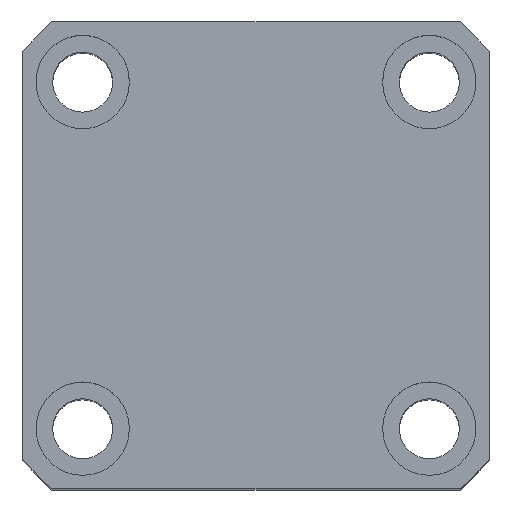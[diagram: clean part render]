
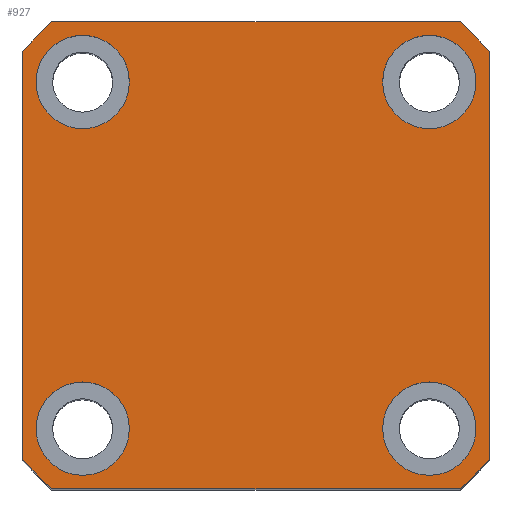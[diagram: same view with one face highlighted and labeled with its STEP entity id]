
A CAD part, top view. The second image highlights one B-rep face of the part: STEP entity #927.
In plain terms, the highlighted planar face has unit normal (0, 0, 1).
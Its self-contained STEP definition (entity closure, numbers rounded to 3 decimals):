
#51 = CARTESIAN_POINT ( 'NONE',  ( 26., -26., 115. ) ) ;
#64 = CARTESIAN_POINT ( 'NONE',  ( 0., 0., 115. ) ) ;
#126 = EDGE_CURVE ( 'NONE', #7807, #1254, #2623, .T. ) ;
#262 = CARTESIAN_POINT ( 'NONE',  ( 30.615, 35., 115. ) ) ;
#281 = CARTESIAN_POINT ( 'NONE',  ( -33., -26., 115. ) ) ;
#358 = VERTEX_POINT ( 'NONE', #7827 ) ;
#450 = LINE ( 'NONE', #4517, #9564 ) ;
#516 = DIRECTION ( 'NONE',  ( 0., 0., 1. ) ) ;
#697 = CARTESIAN_POINT ( 'NONE',  ( -35., -35., 115. ) ) ;
#715 = FACE_BOUND ( 'NONE', #2216, .T. ) ;
#727 = DIRECTION ( 'NONE',  ( 0., 0., 1. ) ) ;
#771 = CARTESIAN_POINT ( 'NONE',  ( -35., 35., 115. ) ) ;
#788 = DIRECTION ( 'NONE',  ( 0., 0., 1. ) ) ;
#839 = CIRCLE ( 'NONE', #6844, 46.5 ) ;
#867 = DIRECTION ( 'NONE',  ( 1., 0., 0. ) ) ;
#882 = DIRECTION ( 'NONE',  ( 1., 0., 0. ) ) ;
#892 = AXIS2_PLACEMENT_3D ( 'NONE', #64, #8614, #882 ) ;
#927 = ADVANCED_FACE ( 'NONE', ( #715, #4674, #2851, #6695, #6946 ), #4814, .T. ) ;
#991 = VERTEX_POINT ( 'NONE', #2134 ) ;
#1029 = DIRECTION ( 'NONE',  ( 0., 0., 1. ) ) ;
#1101 = CIRCLE ( 'NONE', #6341, 7. ) ;
#1243 = VERTEX_POINT ( 'NONE', #262 ) ;
#1254 = VERTEX_POINT ( 'NONE', #5770 ) ;
#1260 = EDGE_CURVE ( 'NONE', #1254, #7807, #5087, .T. ) ;
#1321 = ORIENTED_EDGE ( 'NONE', *, *, #126, .F. ) ;
#1428 = CARTESIAN_POINT ( 'NONE',  ( -30.615, 35., 115. ) ) ;
#1567 = DIRECTION ( 'NONE',  ( 0., 0., 1. ) ) ;
#1652 = CIRCLE ( 'NONE', #2266, 46.5 ) ;
#1757 = CIRCLE ( 'NONE', #5670, 7. ) ;
#1766 = LINE ( 'NONE', #8232, #7683 ) ;
#1822 = DIRECTION ( 'NONE',  ( 0., 0., 1. ) ) ;
#1865 = DIRECTION ( 'NONE',  ( 0., 0., 1. ) ) ;
#1964 = ORIENTED_EDGE ( 'NONE', *, *, #6887, .T. ) ;
#1998 = VERTEX_POINT ( 'NONE', #7475 ) ;
#2037 = DIRECTION ( 'NONE',  ( 1., 0., 0. ) ) ;
#2134 = CARTESIAN_POINT ( 'NONE',  ( -35., 30.615, 115. ) ) ;
#2216 = EDGE_LOOP ( 'NONE', ( #8244, #8494 ) ) ;
#2266 = AXIS2_PLACEMENT_3D ( 'NONE', #6506, #1865, #7262 ) ;
#2315 = AXIS2_PLACEMENT_3D ( 'NONE', #8080, #3473, #9664 ) ;
#2382 = CIRCLE ( 'NONE', #9766, 46.5 ) ;
#2457 = VERTEX_POINT ( 'NONE', #6622 ) ;
#2592 = ORIENTED_EDGE ( 'NONE', *, *, #3324, .T. ) ;
#2623 = CIRCLE ( 'NONE', #4139, 7. ) ;
#2753 = VERTEX_POINT ( 'NONE', #3463 ) ;
#2820 = DIRECTION ( 'NONE',  ( 0., 0., 1. ) ) ;
#2851 = FACE_BOUND ( 'NONE', #5505, .T. ) ;
#3011 = EDGE_CURVE ( 'NONE', #5076, #2457, #6271, .T. ) ;
#3041 = VERTEX_POINT ( 'NONE', #8482 ) ;
#3098 = ORIENTED_EDGE ( 'NONE', *, *, #3011, .F. ) ;
#3324 = EDGE_CURVE ( 'NONE', #9805, #1243, #1652, .T. ) ;
#3463 = CARTESIAN_POINT ( 'NONE',  ( 33., -26., 115. ) ) ;
#3473 = DIRECTION ( 'NONE',  ( 0., 0., 1. ) ) ;
#3653 = DIRECTION ( 'NONE',  ( 0., 1., 0. ) ) ;
#3808 = DIRECTION ( 'NONE',  ( 0., 0., 1. ) ) ;
#3856 = CIRCLE ( 'NONE', #6355, 7. ) ;
#3899 = EDGE_CURVE ( 'NONE', #2457, #5076, #6149, .T. ) ;
#3995 = EDGE_CURVE ( 'NONE', #4167, #991, #7935, .T. ) ;
#4139 = AXIS2_PLACEMENT_3D ( 'NONE', #7368, #8312, #2037 ) ;
#4167 = VERTEX_POINT ( 'NONE', #1428 ) ;
#4210 = EDGE_CURVE ( 'NONE', #8603, #2753, #7199, .T. ) ;
#4282 = ORIENTED_EDGE ( 'NONE', *, *, #4440, .T. ) ;
#4319 = VERTEX_POINT ( 'NONE', #281 ) ;
#4440 = EDGE_CURVE ( 'NONE', #1998, #8237, #2382, .T. ) ;
#4451 = EDGE_LOOP ( 'NONE', ( #8230, #2592, #8931, #7393, #7649, #1964, #8124, #4282 ) ) ;
#4517 = CARTESIAN_POINT ( 'NONE',  ( -35., 35., 115. ) ) ;
#4544 = VERTEX_POINT ( 'NONE', #6165 ) ;
#4667 = ORIENTED_EDGE ( 'NONE', *, *, #6969, .F. ) ;
#4671 = EDGE_CURVE ( 'NONE', #358, #1998, #6015, .T. ) ;
#4674 = FACE_BOUND ( 'NONE', #9829, .T. ) ;
#4678 = AXIS2_PLACEMENT_3D ( 'NONE', #5733, #1029, #6487 ) ;
#4814 = PLANE ( 'NONE',  #892 ) ;
#5012 = CARTESIAN_POINT ( 'NONE',  ( 19., 26., 115. ) ) ;
#5076 = VERTEX_POINT ( 'NONE', #5012 ) ;
#5087 = CIRCLE ( 'NONE', #2315, 7. ) ;
#5233 = CARTESIAN_POINT ( 'NONE',  ( -26., -26., 115. ) ) ;
#5297 = EDGE_CURVE ( 'NONE', #8237, #9805, #1766, .T. ) ;
#5390 = EDGE_CURVE ( 'NONE', #4544, #4319, #3856, .T. ) ;
#5463 = CARTESIAN_POINT ( 'NONE',  ( 26., 26., 115. ) ) ;
#5505 = EDGE_LOOP ( 'NONE', ( #6939, #3098 ) ) ;
#5517 = CARTESIAN_POINT ( 'NONE',  ( 0., 0., 115. ) ) ;
#5586 = DIRECTION ( 'NONE',  ( 0., 0., 1. ) ) ;
#5670 = AXIS2_PLACEMENT_3D ( 'NONE', #6227, #1567, #6984 ) ;
#5733 = CARTESIAN_POINT ( 'NONE',  ( 26., -26., 115. ) ) ;
#5770 = CARTESIAN_POINT ( 'NONE',  ( -33., 26., 115. ) ) ;
#5969 = EDGE_CURVE ( 'NONE', #4319, #4544, #1757, .T. ) ;
#6010 = DIRECTION ( 'NONE',  ( 1., 0., 0. ) ) ;
#6015 = LINE ( 'NONE', #697, #9803 ) ;
#6045 = DIRECTION ( 'NONE',  ( -1., 0., 0. ) ) ;
#6100 = CARTESIAN_POINT ( 'NONE',  ( -19., 26., 115. ) ) ;
#6149 = CIRCLE ( 'NONE', #8934, 7. ) ;
#6165 = CARTESIAN_POINT ( 'NONE',  ( -19., -26., 115. ) ) ;
#6216 = DIRECTION ( 'NONE',  ( 1., 0., 0. ) ) ;
#6227 = CARTESIAN_POINT ( 'NONE',  ( -26., -26., 115. ) ) ;
#6262 = DIRECTION ( 'NONE',  ( 0., -1., 0. ) ) ;
#6271 = CIRCLE ( 'NONE', #6587, 7. ) ;
#6284 = DIRECTION ( 'NONE',  ( 1., 0., 0. ) ) ;
#6341 = AXIS2_PLACEMENT_3D ( 'NONE', #51, #5586, #867 ) ;
#6355 = AXIS2_PLACEMENT_3D ( 'NONE', #5233, #516, #6010 ) ;
#6457 = CARTESIAN_POINT ( 'NONE',  ( 26., 26., 115. ) ) ;
#6487 = DIRECTION ( 'NONE',  ( 1., 0., 0. ) ) ;
#6506 = CARTESIAN_POINT ( 'NONE',  ( 0., 0., 115. ) ) ;
#6587 = AXIS2_PLACEMENT_3D ( 'NONE', #5463, #727, #6216 ) ;
#6622 = CARTESIAN_POINT ( 'NONE',  ( 33., 26., 115. ) ) ;
#6695 = FACE_BOUND ( 'NONE', #6719, .T. ) ;
#6719 = EDGE_LOOP ( 'NONE', ( #1321, #9763 ) ) ;
#6738 = CARTESIAN_POINT ( 'NONE',  ( 35., -30.615, 115. ) ) ;
#6785 = VECTOR ( 'NONE', #6262, 1000. ) ;
#6844 = AXIS2_PLACEMENT_3D ( 'NONE', #5517, #788, #6284 ) ;
#6887 = EDGE_CURVE ( 'NONE', #3041, #358, #839, .T. ) ;
#6917 = CARTESIAN_POINT ( 'NONE',  ( 19., -26., 115. ) ) ;
#6939 = ORIENTED_EDGE ( 'NONE', *, *, #3899, .F. ) ;
#6946 = FACE_OUTER_BOUND ( 'NONE', #4451, .T. ) ;
#6969 = EDGE_CURVE ( 'NONE', #2753, #8603, #1101, .T. ) ;
#6984 = DIRECTION ( 'NONE',  ( 1., 0., 0. ) ) ;
#7026 = LINE ( 'NONE', #771, #6785 ) ;
#7194 = CARTESIAN_POINT ( 'NONE',  ( 35., 30.615, 115. ) ) ;
#7199 = CIRCLE ( 'NONE', #4678, 7. ) ;
#7223 = DIRECTION ( 'NONE',  ( 1., 0., 0. ) ) ;
#7262 = DIRECTION ( 'NONE',  ( 1., 0., 0. ) ) ;
#7283 = EDGE_CURVE ( 'NONE', #1243, #4167, #450, .T. ) ;
#7368 = CARTESIAN_POINT ( 'NONE',  ( -26., 26., 115. ) ) ;
#7393 = ORIENTED_EDGE ( 'NONE', *, *, #3995, .T. ) ;
#7420 = CARTESIAN_POINT ( 'NONE',  ( 0., 0., 115. ) ) ;
#7475 = CARTESIAN_POINT ( 'NONE',  ( 30.615, -35., 115. ) ) ;
#7649 = ORIENTED_EDGE ( 'NONE', *, *, #8689, .T. ) ;
#7683 = VECTOR ( 'NONE', #3653, 1000. ) ;
#7725 = DIRECTION ( 'NONE',  ( 1., 0., 0. ) ) ;
#7807 = VERTEX_POINT ( 'NONE', #6100 ) ;
#7827 = CARTESIAN_POINT ( 'NONE',  ( -30.615, -35., 115. ) ) ;
#7935 = CIRCLE ( 'NONE', #9966, 46.5 ) ;
#8080 = CARTESIAN_POINT ( 'NONE',  ( -26., 26., 115. ) ) ;
#8124 = ORIENTED_EDGE ( 'NONE', *, *, #4671, .T. ) ;
#8191 = DIRECTION ( 'NONE',  ( 1., 0., 0. ) ) ;
#8230 = ORIENTED_EDGE ( 'NONE', *, *, #5297, .T. ) ;
#8232 = CARTESIAN_POINT ( 'NONE',  ( 35., 35., 115. ) ) ;
#8237 = VERTEX_POINT ( 'NONE', #6738 ) ;
#8244 = ORIENTED_EDGE ( 'NONE', *, *, #5390, .F. ) ;
#8312 = DIRECTION ( 'NONE',  ( 0., 0., 1. ) ) ;
#8396 = CARTESIAN_POINT ( 'NONE',  ( 0., 0., 115. ) ) ;
#8482 = CARTESIAN_POINT ( 'NONE',  ( -35., -30.615, 115. ) ) ;
#8494 = ORIENTED_EDGE ( 'NONE', *, *, #5969, .F. ) ;
#8603 = VERTEX_POINT ( 'NONE', #6917 ) ;
#8614 = DIRECTION ( 'NONE',  ( 0., 0., 1. ) ) ;
#8689 = EDGE_CURVE ( 'NONE', #991, #3041, #7026, .T. ) ;
#8723 = ORIENTED_EDGE ( 'NONE', *, *, #4210, .F. ) ;
#8931 = ORIENTED_EDGE ( 'NONE', *, *, #7283, .T. ) ;
#8934 = AXIS2_PLACEMENT_3D ( 'NONE', #6457, #1822, #7223 ) ;
#9147 = DIRECTION ( 'NONE',  ( 1., 0., 0. ) ) ;
#9564 = VECTOR ( 'NONE', #6045, 1000. ) ;
#9664 = DIRECTION ( 'NONE',  ( 1., 0., 0. ) ) ;
#9763 = ORIENTED_EDGE ( 'NONE', *, *, #1260, .F. ) ;
#9766 = AXIS2_PLACEMENT_3D ( 'NONE', #8396, #3808, #9147 ) ;
#9803 = VECTOR ( 'NONE', #7725, 1000. ) ;
#9805 = VERTEX_POINT ( 'NONE', #7194 ) ;
#9829 = EDGE_LOOP ( 'NONE', ( #4667, #8723 ) ) ;
#9966 = AXIS2_PLACEMENT_3D ( 'NONE', #7420, #2820, #8191 ) ;
